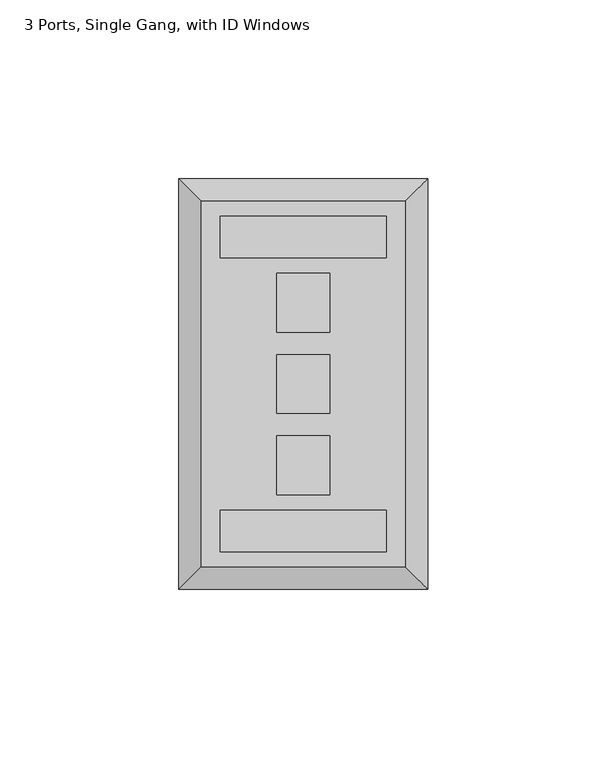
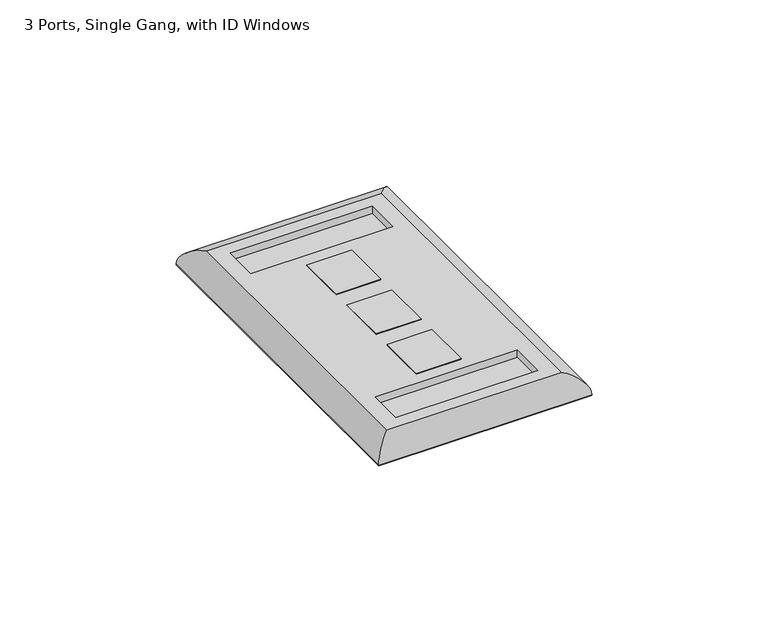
"""IFC4 building model written with IfcOpenShell, lengths in millimetres: electric appliance geometry, Data_Device-Work_Area-Leviton-QuickPort-Wallplate : 3 Ports, Single Gang, with ID Windows."""

from ifc_helpers import new_model, si_unit, frame, origin, origin_with_axes, place, context, project, spatial, polyline, ellipse_curve, outline, extrude, source, transform, mapped, element, save
from ifc_brep_helpers import plane_surface, cylinder_surface, advanced_brep


def electric_appliance_3_ports_single_gang_with_id_windows_5d27c726(model_context):
    return source(origin(), model_context, "Body", "SolidModel", [
        extrude(outline(polyline([(-15.6591, 16.4465), (-15.6591, -0.0635), (-30.3911, -0.0635), (-30.3911, 16.4465), (-15.6591, 16.4465)])), origin_with_axes(), (0.0, 0.0, 1.0), 6.35),
        extrude(outline(polyline([(-15.6591, 39.1795), (-15.6591, 22.6695), (-30.3911, 22.6695), (-30.3911, 39.1795), (-15.6591, 39.1795)])), origin_with_axes(), (0.0, 0.0, 1.0), 6.35),
        extrude(outline(polyline([(-15.6591, -6.2865), (-15.6591, -22.7965), (-30.3911, -22.7965), (-30.3911, -6.2865), (-15.6591, -6.2865)])), origin_with_axes(), (0.0, 0.0, 1.0), 6.35),
        advanced_brep(
        [(5.5499, -42.9895, 6.35), (5.5499, 59.3725, 6.35), (-51.6001, 59.3725, 6.35), (-51.6001, -42.9895, 6.35), (-30.3911, 39.1795, 6.35), (-15.6591, 39.1795, 6.35), (-15.6591, 22.6695, 6.35), (-30.3911, 22.6695, 6.35), (-30.3911, 16.4465, 6.35), (-15.6591, 16.4465, 6.35), (-15.6591, -0.0635, 6.35), (-30.3911, -0.0635, 6.35), (-30.3911, -6.2865, 6.35), (-15.6591, -6.2865, 6.35), (-15.6591, -22.7965, 6.35), (-30.3911, -22.7965, 6.35), (-46.2661, 55.1815, 6.35), (0.2159, 55.1815, 6.35), (0.2159, 43.4975, 6.35), (-46.2661, 43.4975, 6.35), (0.2159, -27.1145, 6.35), (0.2159, -38.7985, 6.35), (-46.2661, -38.7985, 6.35), (-46.2661, -27.1145, 6.35), (11.8999, 65.7225, 0.0), (11.8999, -49.3395, 0.0), (-57.9501, -49.3395, 0.0), (-57.9501, 65.7225, 0.0), (-15.6591, 39.1795, 0.0), (-30.3911, 39.1795, 0.0), (-30.3911, 22.6695, 0.0), (-15.6591, 22.6695, 0.0), (-15.6591, 16.4465, 0.0), (-30.3911, 16.4465, 0.0), (-30.3911, -0.0635, 0.0), (-15.6591, -0.0635, 0.0), (-15.6591, -6.2865, 0.0), (-30.3911, -6.2865, 0.0), (-30.3911, -22.7965, 0.0), (-15.6591, -22.7965, 0.0), (-57.9501, 65.7225, 0.254), (11.8999, 65.7225, 0.254), (-57.9501, -49.3395, 0.254), (11.8999, -49.3395, 0.254), (0.2159, 55.1815, 3.81), (-46.2661, 55.1815, 3.81), (-46.2661, 43.4975, 3.81), (0.2159, 43.4975, 3.81), (0.2159, -38.7985, 3.81), (0.2159, -27.1145, 3.81), (-46.2661, -27.1145, 3.81), (-46.2661, -38.7985, 3.81)],
        [
            (0, 1),
            (1, 2),
            (2, 3),
            (3, 0),
            (4, 5),
            (5, 6),
            (6, 7),
            (7, 4),
            (8, 9),
            (9, 10),
            (10, 11),
            (11, 8),
            (12, 13),
            (13, 14),
            (14, 15),
            (15, 12),
            (16, 17),
            (17, 18),
            (18, 19),
            (19, 16),
            (20, 21),
            (21, 22),
            (22, 23),
            (23, 20),
            (24, 25),
            (25, 26),
            (26, 27),
            (27, 24),
            (28, 29),
            (29, 30),
            (30, 31),
            (31, 28),
            (32, 33),
            (33, 34),
            (34, 35),
            (35, 32),
            (36, 37),
            (37, 38),
            (38, 39),
            (39, 36),
            (27, 40),
            (40, 41),
            (41, 24),
            (26, 42),
            (42, 40),
            (25, 43),
            (43, 42),
            (41, 43),
            (4, 29),
            (28, 5),
            (7, 30),
            (6, 31),
            (8, 33),
            (32, 9),
            (11, 34),
            (10, 35),
            (12, 37),
            (36, 13),
            (15, 38),
            (14, 39),
            (44, 45),
            (45, 46),
            (46, 47),
            (47, 44),
            (48, 49),
            (49, 50),
            (50, 51),
            (51, 48),
            (44, 17),
            (16, 45),
            (19, 46),
            (18, 47),
            (48, 21),
            (20, 49),
            (23, 50),
            (22, 51),
            (0, 43, ellipse_curve(frame((5.5499, -42.9895, -0.0052917), z_axis=(0.7071067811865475, 0.7071067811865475, 0.0), x_axis=(0.7071067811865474, -0.7071067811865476, 0.0)), 8.9877397, 6.3552917)),
            (41, 1, ellipse_curve(frame((5.5499, 59.3725, -0.0052917), z_axis=(0.7071067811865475, -0.7071067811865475, 0.0), x_axis=(-0.7071067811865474, -0.7071067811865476, 0.0)), 8.9877397, 6.3552917)),
            (3, 42, ellipse_curve(frame((-51.6001, -42.9895, -0.0052917), z_axis=(0.7071067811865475, -0.7071067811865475, 0.0), x_axis=(-0.7071067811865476, -0.7071067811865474, 0.0)), 8.9877397, 6.3552917)),
            (2, 40, ellipse_curve(frame((-51.6001, 59.3725, -0.0052917), z_axis=(-0.7071067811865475, -0.7071067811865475, 0.0), x_axis=(-0.7071067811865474, 0.7071067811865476, 0.0)), 8.9877397, 6.3552917)),
        ],
        [
            plane_surface(frame((-57.9501, 65.7225, 6.35), z_axis=(0.0, 0.0, 1.0), x_axis=(-1.0, 0.0, 0.0))),
            plane_surface(frame((-57.9501, 65.7225, 0.0), z_axis=(0.0, 0.0, -1.0), x_axis=(1.0, 0.0, 0.0))),
            plane_surface(frame((11.8999, 65.7225, 6.35), z_axis=(0.0, 1.0, 0.0), x_axis=(0.0, 0.0, -1.0))),
            plane_surface(frame((-57.9501, 65.7225, 6.35), z_axis=(-1.0, 0.0, 0.0), x_axis=(0.0, 0.0, -1.0))),
            plane_surface(frame((-57.9501, -49.3395, 6.35), z_axis=(0.0, -1.0, 0.0), x_axis=(0.0, 0.0, -1.0))),
            plane_surface(frame((11.8999, -49.3395, 6.35), z_axis=(1.0, 0.0, 0.0), x_axis=(0.0, 0.0, -1.0))),
            plane_surface(frame((-15.6591, 39.1795, 6.35), z_axis=(0.0, -1.0, 0.0), x_axis=(0.0, 0.0, -1.0))),
            plane_surface(frame((-30.3911, 39.1795, 6.35), z_axis=(1.0, 0.0, 0.0), x_axis=(0.0, 0.0, -1.0))),
            plane_surface(frame((-30.3911, 22.6695, 6.35), z_axis=(0.0, 1.0, 0.0), x_axis=(0.0, 0.0, -1.0))),
            plane_surface(frame((-15.6591, 22.6695, 6.35), z_axis=(-1.0, 0.0, 0.0), x_axis=(0.0, 0.0, -1.0))),
            plane_surface(frame((-15.6591, 16.4465, 6.35), z_axis=(0.0, -1.0, 0.0), x_axis=(0.0, 0.0, -1.0))),
            plane_surface(frame((-30.3911, 16.4465, 6.35), z_axis=(1.0, 0.0, 0.0), x_axis=(0.0, 0.0, -1.0))),
            plane_surface(frame((-30.3911, -0.0635, 6.35), z_axis=(0.0, 1.0, 0.0), x_axis=(0.0, 0.0, -1.0))),
            plane_surface(frame((-15.6591, -0.0635, 6.35), z_axis=(-1.0, 0.0, 0.0), x_axis=(0.0, 0.0, -1.0))),
            plane_surface(frame((-15.6591, -6.2865, 6.35), z_axis=(0.0, -1.0, 0.0), x_axis=(0.0, 0.0, -1.0))),
            plane_surface(frame((-30.3911, -6.2865, 6.35), z_axis=(1.0, 0.0, 0.0), x_axis=(0.0, 0.0, -1.0))),
            plane_surface(frame((-30.3911, -22.7965, 6.35), z_axis=(0.0, 1.0, 0.0), x_axis=(0.0, 0.0, -1.0))),
            plane_surface(frame((-15.6591, -22.7965, 6.35), z_axis=(-1.0, 0.0, 0.0), x_axis=(0.0, 0.0, -1.0))),
            plane_surface(frame((-46.2661, 55.1815, 3.81), z_axis=(0.0, 0.0, 1.0), x_axis=(1.0, 0.0, 0.0))),
            plane_surface(frame((0.2159, 55.1815, 6.35), z_axis=(0.0, -1.0, 0.0), x_axis=(0.0, 0.0, -1.0))),
            plane_surface(frame((-46.2661, 55.1815, 6.35), z_axis=(1.0, 0.0, 0.0), x_axis=(0.0, 0.0, -1.0))),
            plane_surface(frame((-46.2661, 43.4975, 6.35), z_axis=(0.0, 1.0, 0.0), x_axis=(0.0, 0.0, -1.0))),
            plane_surface(frame((0.2159, 43.4975, 6.35), z_axis=(-1.0, 0.0, 0.0), x_axis=(0.0, 0.0, -1.0))),
            plane_surface(frame((0.2159, -38.7985, 6.35), z_axis=(-1.0, 0.0, 0.0), x_axis=(0.0, 0.0, -1.0))),
            plane_surface(frame((0.2159, -27.1145, 6.35), z_axis=(0.0, -1.0, 0.0), x_axis=(0.0, 0.0, -1.0))),
            plane_surface(frame((-46.2661, -27.1145, 6.35), z_axis=(1.0, 0.0, 0.0), x_axis=(0.0, 0.0, -1.0))),
            plane_surface(frame((-46.2661, -38.7985, 6.35), z_axis=(0.0, 1.0, 0.0), x_axis=(0.0, 0.0, -1.0))),
            cylinder_surface(frame((5.5499, 65.7225, -0.0052917), z_axis=(0.0, -1.0, 0.0), x_axis=(1.0, 0.0, 0.0)), 6.3552917),
            cylinder_surface(frame((11.8999, -42.9895, -0.0052917), z_axis=(-1.0, 0.0, 0.0), x_axis=(0.0, -1.0, 0.0)), 6.3552917),
            cylinder_surface(frame((-51.6001, -49.3395, -0.0052917), z_axis=(0.0, 1.0, 0.0), x_axis=(-1.0, 0.0, 0.0)), 6.3552917),
            cylinder_surface(frame((-57.9501, 59.3725, -0.0052917), z_axis=(1.0, 0.0, 0.0), x_axis=(0.0, 1.0, 0.0)), 6.3552917),
        ],
        [
            (0, [[1, 2, 3, 4], [5, 6, 7, 8], [9, 10, 11, 12], [13, 14, 15, 16], [17, 18, 19, 20], [21, 22, 23, 24]]),
            (1, [[25, 26, 27, 28], [29, 30, 31, 32], [33, 34, 35, 36], [37, 38, 39, 40]]),
            (2, [[-28, 41, 42, 43]]),
            (3, [[-27, 44, 45, -41]]),
            (4, [[-26, 46, 47, -44]]),
            (5, [[-25, -43, 48, -46]]),
            (6, [[49, -29, 50, -5]]),
            (7, [[-49, -8, 51, -30]]),
            (8, [[-51, -7, 52, -31]]),
            (9, [[-50, -32, -52, -6]]),
            (10, [[53, -33, 54, -9]]),
            (11, [[-53, -12, 55, -34]]),
            (12, [[-55, -11, 56, -35]]),
            (13, [[-54, -36, -56, -10]]),
            (14, [[57, -37, 58, -13]]),
            (15, [[-57, -16, 59, -38]]),
            (16, [[-59, -15, 60, -39]]),
            (17, [[-58, -40, -60, -14]]),
            (18, [[61, 62, 63, 64]]),
            (18, [[65, 66, 67, 68]]),
            (19, [[-61, 69, -17, 70]]),
            (20, [[-62, -70, -20, 71]]),
            (21, [[-63, -71, -19, 72]]),
            (22, [[-64, -72, -18, -69]]),
            (23, [[-65, 73, -21, 74]]),
            (24, [[-66, -74, -24, 75]]),
            (25, [[-67, -75, -23, 76]]),
            (26, [[-68, -76, -22, -73]]),
            (27, [[77, -48, 78, -1]]),
            (28, [[-77, -4, 79, -47]]),
            (29, [[-79, -3, 80, -45]]),
            (30, [[-78, -42, -80, -2]]),
        ],
    ),
        extrude(outline(polyline([(11.6459, 65.4685), (11.6459, -49.0855), (-57.6961, -49.0855), (-57.6961, 65.4685), (11.6459, 65.4685)]), holes=[polyline([(-15.6591, 39.1795), (-30.3911, 39.1795), (-30.3911, 22.6695), (-15.6591, 22.6695), (-15.6591, 39.1795)]), polyline([(-15.6591, 16.4465), (-30.3911, 16.4465), (-30.3911, -0.0635), (-15.6591, -0.0635), (-15.6591, 16.4465)]), polyline([(-15.6591, -6.2865), (-30.3911, -6.2865), (-30.3911, -22.7965), (-15.6591, -22.7965), (-15.6591, -6.2865)])]), origin_with_axes(), (0.0, 0.0, 1.0), 0.254),
    ])


if __name__ == "__main__":
    model = new_model("IFC4")
    model_context = context("Model", 3, world=origin())
    ifc_project = project(units=[si_unit("LENGTHUNIT", "METRE", prefix="MILLI")], contexts=[model_context])
    site = spatial("IfcSite", under=ifc_project)
    building = spatial("IfcBuilding", under=site)
    placement = place(None, origin())
    electric_appliance_3_ports_single_gang_with_id_windows_shape = electric_appliance_3_ports_single_gang_with_id_windows_5d27c726(model_context)
    element("IfcElectricAppliance", 1, ObjectType="Data_Device-Work_Area-Leviton-QuickPort-Wallplate : 3 Ports, Single Gang, with ID Windows", at=placement, inside=building, context=model_context, shape_type="MappedRepresentation", body=[
        mapped(electric_appliance_3_ports_single_gang_with_id_windows_shape, transform((0.0, 0.0, 0.0), x_axis=(1.0, 0.0, 0.0), y_axis=(0.0, 1.0, 0.0), z_axis=(0.0, 0.0, 1.0))),
    ])
    save(model, "model.ifc")
